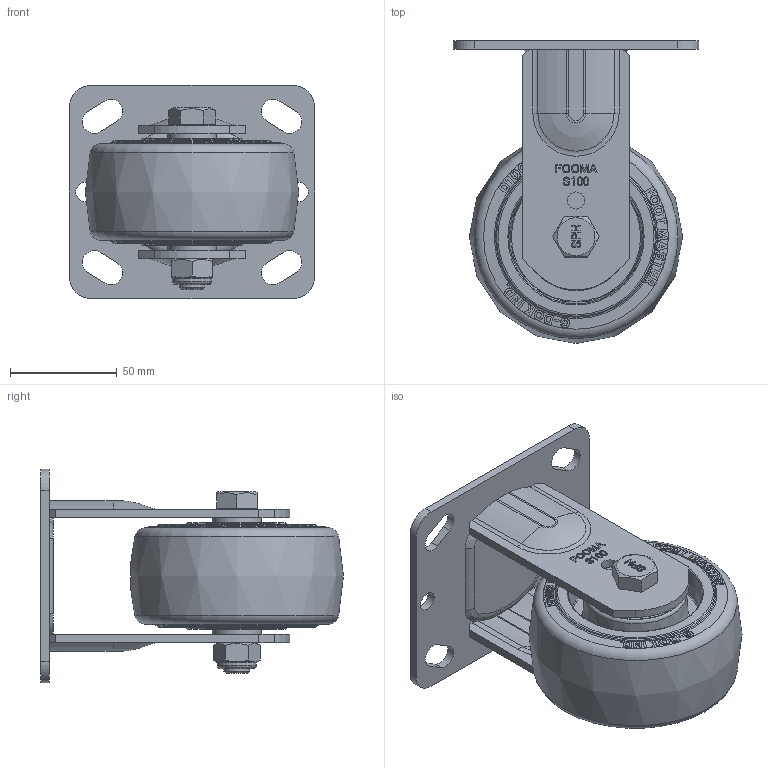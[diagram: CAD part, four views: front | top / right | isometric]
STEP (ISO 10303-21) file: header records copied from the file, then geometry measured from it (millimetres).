
FILE_DESCRIPTION(/* description */ (''),/* implementation_level */ '2;1');
FILE_NAME(/* name */ 'C:\Users\admin\Desktop\업무폴더\일자별 업무\2026\05월\05.15\변환\SPH-100-ARF-TUD&HRD.ipt.stp',/* time_stamp */ '2026-05-15T13:16:17+09:00',/* author */ ('admin'),/* organization */ ('지덕산업'),/* preprocessor_version */ 'ST-DEVELOPER v18.1',/* originating_system */ 'Autodesk Inventor 2021',/* authorisation */ '');
FILE_SCHEMA (('CONFIG_CONTROL_DESIGN'));
Length unit declared in the file: millimetre
Products named in the file (1): SPH-100-ARF-TUD&HRD
Bounding box: 115 x 142 x 100 mm (x, y, z)
Volume: 415771.5 mm3; surface area: 84418.3 mm2
Topology: 1 solids, 1 shells, 1033 faces, 2763 edges, 1831 vertices
Faces by surface type: plane 486, bspline 397, cone 59, cylinder 55, torus 32, sphere 4
Full cylindrical faces by diameter (mm): 8 x2, 9 x2, 12 x1, 18 x1, 18.5 x1, 46.001 x2
Entity records: 35797 total; most frequent: CARTESIAN_POINT 13639, ORIENTED_EDGE 5526, DIRECTION 3077, EDGE_CURVE 2763, VERTEX_POINT 1831, LINE 1335, VECTOR 1335, EDGE_LOOP 1150
